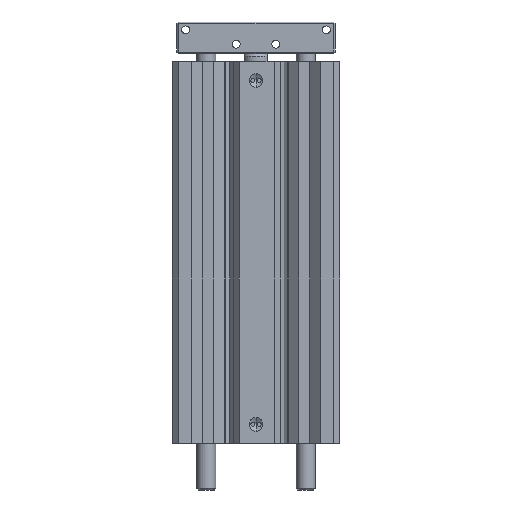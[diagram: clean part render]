
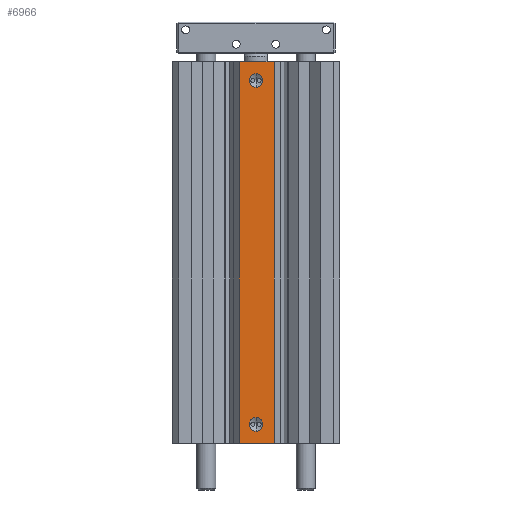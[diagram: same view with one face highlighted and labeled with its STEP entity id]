
A CAD part, front view. The second image highlights one B-rep face of the part: STEP entity #6966.
In plain terms, the highlighted planar face has unit normal (0, -1, 0).
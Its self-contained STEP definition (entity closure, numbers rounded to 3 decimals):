
#631 = AXIS2_PLACEMENT_3D ( 'NONE', #3210, #3209, #3208 ) ;
#700 = CIRCLE ( 'NONE', #2607, 4.35 ) ;
#704 = CIRCLE ( 'NONE', #2608, 4.35 ) ;
#1183 = FACE_BOUND ( 'NONE', #3763, .T. ) ;
#1184 = FACE_BOUND ( 'NONE', #3767, .T. ) ;
#1185 = FACE_OUTER_BOUND ( 'NONE', #3766, .T. ) ;
#1952 = DIRECTION ( 'NONE',  ( 0., 1., 0. ) ) ;
#1954 = CARTESIAN_POINT ( 'NONE',  ( 0., -25.75, -193.75 ) ) ;
#1957 = DIRECTION ( 'NONE',  ( 0., 1., 0. ) ) ;
#1958 = CARTESIAN_POINT ( 'NONE',  ( 0., -25.75, 23.75 ) ) ;
#1959 = DIRECTION ( 'NONE',  ( -1., 0., 0. ) ) ;
#1963 = DIRECTION ( 'NONE',  ( -1., 0., 0. ) ) ;
#2233 = EDGE_CURVE ( 'NONE', #4968, #4965, #7874, .T. ) ;
#2234 = EDGE_CURVE ( 'NONE', #4968, #4993, #7876, .T. ) ;
#2235 = EDGE_CURVE ( 'NONE', #4965, #4996, #7878, .T. ) ;
#2236 = EDGE_CURVE ( 'NONE', #4993, #4996, #7880, .T. ) ;
#2607 = AXIS2_PLACEMENT_3D ( 'NONE', #1954, #1952, #1959 ) ;
#2608 = AXIS2_PLACEMENT_3D ( 'NONE', #1958, #1957, #1963 ) ;
#3208 = DIRECTION ( 'NONE',  ( 0., 0., -1. ) ) ;
#3209 = DIRECTION ( 'NONE',  ( 0., -1., 0. ) ) ;
#3210 = CARTESIAN_POINT ( 'NONE',  ( -10.5, -25.75, 35.75 ) ) ;
#3211 = PLANE ( 'NONE',  #631 ) ;
#3763 = EDGE_LOOP ( 'NONE', ( #3959, #3958 ) ) ;
#3766 = EDGE_LOOP ( 'NONE', ( #3955, #3954, #3953, #3951 ) ) ;
#3767 = EDGE_LOOP ( 'NONE', ( #3957, #3956 ) ) ;
#3951 = ORIENTED_EDGE ( 'NONE', *, *, #2236, .F. ) ;
#3953 = ORIENTED_EDGE ( 'NONE', *, *, #2235, .T. ) ;
#3954 = ORIENTED_EDGE ( 'NONE', *, *, #2233, .T. ) ;
#3955 = ORIENTED_EDGE ( 'NONE', *, *, #2234, .F. ) ;
#3956 = ORIENTED_EDGE ( 'NONE', *, *, #5354, .T. ) ;
#3957 = ORIENTED_EDGE ( 'NONE', *, *, #8184, .T. ) ;
#3958 = ORIENTED_EDGE ( 'NONE', *, *, #5365, .T. ) ;
#3959 = ORIENTED_EDGE ( 'NONE', *, *, #8185, .T. ) ;
#4965 = VERTEX_POINT ( 'NONE', #6409 ) ;
#4968 = VERTEX_POINT ( 'NONE', #6405 ) ;
#4980 = VERTEX_POINT ( 'NONE', #6391 ) ;
#4993 = VERTEX_POINT ( 'NONE', #6377 ) ;
#4996 = VERTEX_POINT ( 'NONE', #6372 ) ;
#5084 = VERTEX_POINT ( 'NONE', #6266 ) ;
#5095 = VERTEX_POINT ( 'NONE', #6250 ) ;
#5206 = VERTEX_POINT ( 'NONE', #6128 ) ;
#5354 = EDGE_CURVE ( 'NONE', #5084, #5206, #8028, .T. ) ;
#5365 = EDGE_CURVE ( 'NONE', #4980, #5095, #8044, .T. ) ;
#5881 = DIRECTION ( 'NONE',  ( -1., 0., 0. ) ) ;
#5882 = DIRECTION ( 'NONE',  ( 0., 1., 0. ) ) ;
#5883 = CARTESIAN_POINT ( 'NONE',  ( 0., -25.75, 23.75 ) ) ;
#5912 = DIRECTION ( 'NONE',  ( -1., 0., 0. ) ) ;
#5913 = DIRECTION ( 'NONE',  ( 0., 1., 0. ) ) ;
#5914 = CARTESIAN_POINT ( 'NONE',  ( 0., -25.75, -193.75 ) ) ;
#6128 = CARTESIAN_POINT ( 'NONE',  ( -4.35, -25.75, -193.75 ) ) ;
#6250 = CARTESIAN_POINT ( 'NONE',  ( -4.35, -25.75, 23.75 ) ) ;
#6266 = CARTESIAN_POINT ( 'NONE',  ( 4.35, -25.75, -193.75 ) ) ;
#6372 = CARTESIAN_POINT ( 'NONE',  ( 11.5, -25.75, -205.75 ) ) ;
#6377 = CARTESIAN_POINT ( 'NONE',  ( 11.5, -25.75, 35.75 ) ) ;
#6391 = CARTESIAN_POINT ( 'NONE',  ( 4.35, -25.75, 23.75 ) ) ;
#6405 = CARTESIAN_POINT ( 'NONE',  ( -10.5, -25.75, 35.75 ) ) ;
#6409 = CARTESIAN_POINT ( 'NONE',  ( -10.5, -25.75, -205.75 ) ) ;
#6447 = CARTESIAN_POINT ( 'NONE',  ( -10.5, -25.75, 35.75 ) ) ;
#6462 = DIRECTION ( 'NONE',  ( 0., 0., -1. ) ) ;
#6465 = CARTESIAN_POINT ( 'NONE',  ( 11.5, -25.75, 35.75 ) ) ;
#6671 = DIRECTION ( 'NONE',  ( 1., 0., 0. ) ) ;
#6672 = CARTESIAN_POINT ( 'NONE',  ( 0.037, -25.75, -205.75 ) ) ;
#6674 = DIRECTION ( 'NONE',  ( 0., 0., -1. ) ) ;
#6675 = CARTESIAN_POINT ( 'NONE',  ( 0.037, -25.75, 35.75 ) ) ;
#6688 = DIRECTION ( 'NONE',  ( 1., 0., 0. ) ) ;
#6966 = ADVANCED_FACE ( 'NONE', ( #1183, #1184, #1185 ), #3211, .T. ) ;
#7113 = AXIS2_PLACEMENT_3D ( 'NONE', #5914, #5913, #5912 ) ;
#7119 = AXIS2_PLACEMENT_3D ( 'NONE', #5883, #5882, #5881 ) ;
#7874 = LINE ( 'NONE', #6447, #7875 ) ;
#7875 = VECTOR ( 'NONE', #6674, 1000. ) ;
#7876 = LINE ( 'NONE', #6675, #7877 ) ;
#7877 = VECTOR ( 'NONE', #6688, 1000. ) ;
#7878 = LINE ( 'NONE', #6672, #7879 ) ;
#7879 = VECTOR ( 'NONE', #6671, 1000. ) ;
#7880 = LINE ( 'NONE', #6465, #7881 ) ;
#7881 = VECTOR ( 'NONE', #6462, 1000. ) ;
#8028 = CIRCLE ( 'NONE', #7113, 4.35 ) ;
#8044 = CIRCLE ( 'NONE', #7119, 4.35 ) ;
#8184 = EDGE_CURVE ( 'NONE', #5206, #5084, #700, .T. ) ;
#8185 = EDGE_CURVE ( 'NONE', #5095, #4980, #704, .T. ) ;
